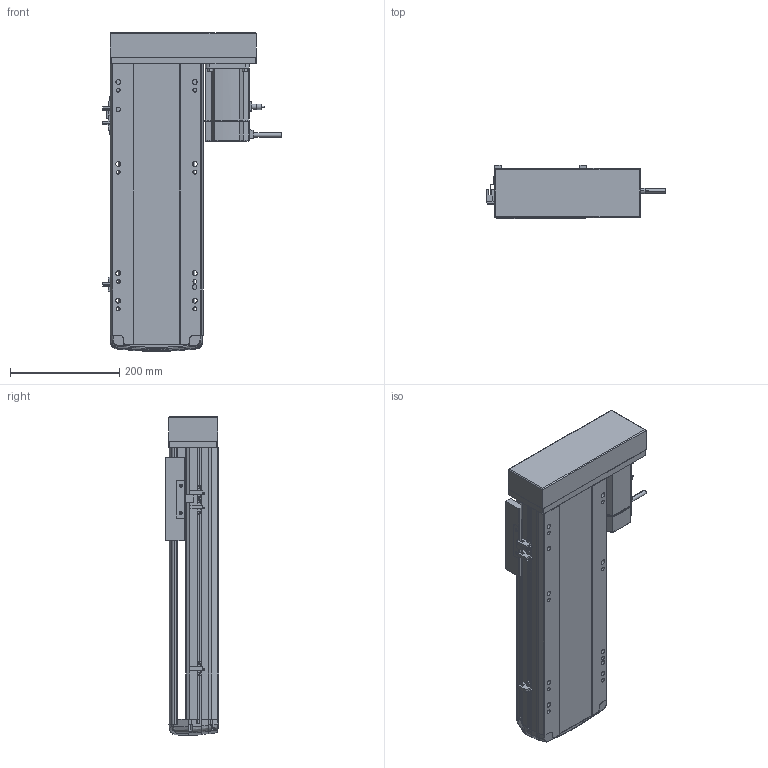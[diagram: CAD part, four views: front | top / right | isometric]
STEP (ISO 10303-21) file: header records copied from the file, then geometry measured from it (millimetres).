
FILE_DESCRIPTION (( 'STEP AP214' ), '1' );
FILE_NAME ('RTH17-XX-300-L-M75-C4.STEP', '2025-10-24T10:31:27', ( '' ), ( '' ), 'SwSTEP 2.0', 'SolidWorks 2018', '' );
FILE_SCHEMA (( 'AUTOMOTIVE_DESIGN' ));
Length unit declared in the file: millimetre
Products named in the file (10): N_RTH17-M-007上盖^RTH17-XX-XX-L-M75-C4（方程式）; N_RTH17-L-008-P75电机安装板左转折^RTH17-XX-XX-L-M75-C4（方程式）; N_RTH17-E-004丝杆螺母连接座^RTH17-XX-XX-L-M75-C4（方程式）; N_OMRON EE-SX672 換覜ん^RTH17-XX-XX-L-M75-C4ㄗ源最宒ㄘ; N_RTH-L-012 感应片(外置)^RTH17-XX-XX-L-M75-C4（方程式）; N_M75^RTH17-XX-XX-L-M75-C4（方程式）; N_RTH17-M-011底座^RTH17-XX-XX-L-M75-C4（方程式）; N_RTH17-L-018盖子^RTH17-XX-XX-L-M75-C4（方程式）; RTH17-XX-300-L-M75-C4; N_RTH17-GY-001P^RTH17-XX-XX-L-M75-C4（方程式）
Assembly tree (11 placements, depth 2):
  RTH17-XX-300-L-M75-C4
    N_RTH17-M-011底座^RTH17-XX-XX-L-M75-C4（方程式）
    N_RTH17-M-007上盖^RTH17-XX-XX-L-M75-C4（方程式）
    N_M75^RTH17-XX-XX-L-M75-C4（方程式）
    N_OMRON EE-SX672 換覜ん^RTH17-XX-XX-L-M75-C4ㄗ源最宒ㄘ  x3
    N_RTH-L-012 感应片(外置)^RTH17-XX-XX-L-M75-C4（方程式）
    N_RTH17-L-008-P75电机安装板左转折^RTH17-XX-XX-L-M75-C4（方程式）
    N_RTH17-L-018盖子^RTH17-XX-XX-L-M75-C4（方程式）
    N_RTH17-E-004丝杆螺母连接座^RTH17-XX-XX-L-M75-C4（方程式）
    N_RTH17-GY-001P^RTH17-XX-XX-L-M75-C4（方程式）
Bounding box: 326.7 x 97 x 583.07 mm (x, y, z)
Volume: 6403889.9 mm3; surface area: 807936.1 mm2
Topology: 13 solids, 15 shells, 1725 faces, 4727 edges, 3058 vertices
Faces by surface type: plane 829, cylinder 482, bspline 377, cone 28, torus 9
Entity records: 49821 total; most frequent: CARTESIAN_POINT 19987, ORIENTED_EDGE 6478, DIRECTION 5383, EDGE_CURVE 3243, VERTEX_POINT 2094, AXIS2_PLACEMENT_3D 1801, LINE 1781, VECTOR 1781
